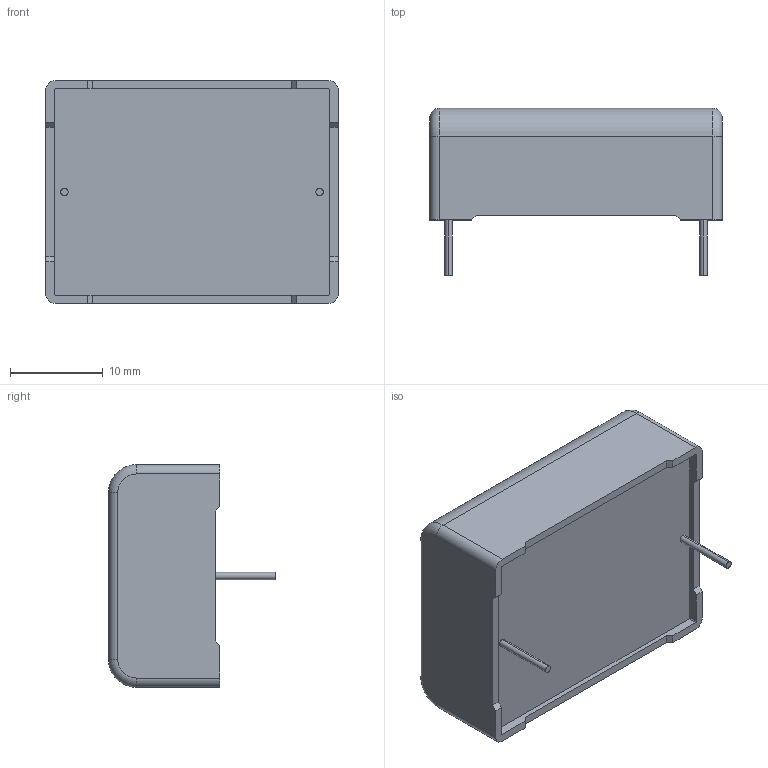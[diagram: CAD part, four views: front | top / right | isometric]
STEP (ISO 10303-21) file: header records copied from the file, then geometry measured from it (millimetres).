
FILE_DESCRIPTION (( 'STEP AP203' ), '1' );
FILE_NAME ('DC_Link_24x12x31.5_2pins.step', '2017-04-03T15:59:52', ( 'work' ), ( 'Hewlett-Packard Company' ), 'SwSTEP 2.0', 'SolidWorks 2017', '' );
FILE_SCHEMA (( 'CONFIG_CONTROL_DESIGN' ));
Length unit declared in the file: millimetre
Products named in the file (1): DC_Link_24x12x31.5_2pins
Bounding box: 31.5 x 18 x 24 mm (x, y, z)
Volume: 8245.9 mm3; surface area: 2782.3 mm2
Topology: 1 solids, 1 shells, 116 faces, 307 edges, 202 vertices
Faces by surface type: plane 80, cylinder 16, bspline 16, torus 4
Entity records: 4332 total; most frequent: CARTESIAN_POINT 1450, ORIENTED_EDGE 614, DIRECTION 513, EDGE_CURVE 307, VECTOR 239, LINE 239, VERTEX_POINT 202, AXIS2_PLACEMENT_3D 137
